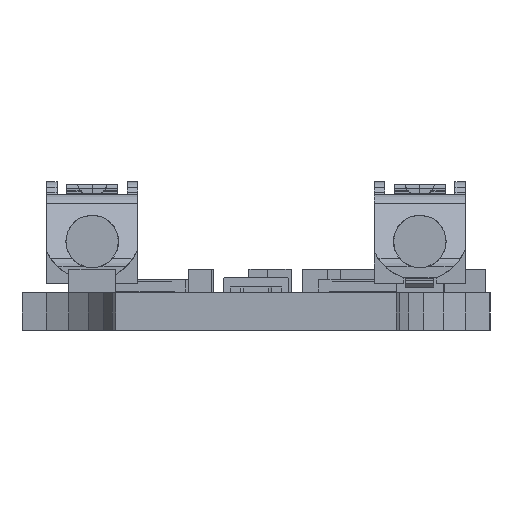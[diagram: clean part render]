
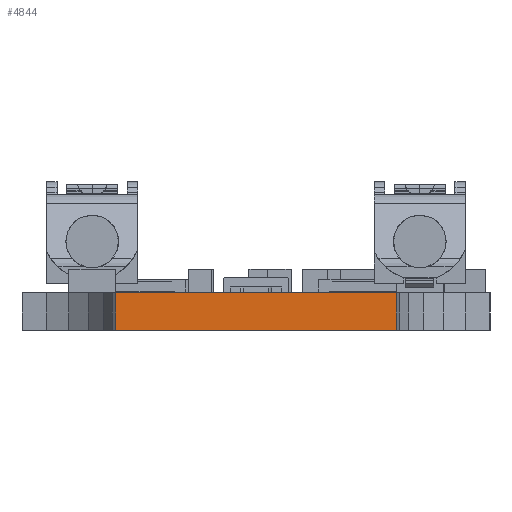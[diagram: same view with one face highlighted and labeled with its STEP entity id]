
A CAD part, left-side view. The second image highlights one B-rep face of the part: STEP entity #4844.
In plain terms, the highlighted planar face has unit normal (-1, 0, 0).
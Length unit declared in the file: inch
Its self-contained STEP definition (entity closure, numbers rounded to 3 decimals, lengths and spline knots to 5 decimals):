
#15=DIRECTION('',(0.,-1.,0.));
#16=VECTOR('',#15,12.);
#17=CARTESIAN_POINT('',(-279.6,6.,0.));
#18=LINE('',#17,#16);
#1262=DIRECTION('',(0.,0.,1.));
#1263=VECTOR('',#1262,1.6);
#1264=CARTESIAN_POINT('',(-279.6,6.,0.));
#1265=LINE('',#1264,#1263);
#2501=DIRECTION('',(0.,0.,1.));
#2502=VECTOR('',#2501,1.6);
#2503=CARTESIAN_POINT('',(-279.6,-6.,0.));
#2504=LINE('',#2503,#2502);
#2508=DIRECTION('',(0.,-1.,0.));
#2509=VECTOR('',#2508,12.);
#2510=CARTESIAN_POINT('',(-279.6,6.,1.6));
#2511=LINE('',#2510,#2509);
#3754=CARTESIAN_POINT('',(-279.6,6.,0.));
#3755=CARTESIAN_POINT('',(-279.6,-6.,0.));
#3756=VERTEX_POINT('',#3754);
#3757=VERTEX_POINT('',#3755);
#4110=CARTESIAN_POINT('',(-279.6,6.,1.6));
#4111=CARTESIAN_POINT('',(-279.6,-6.,1.6));
#4112=VERTEX_POINT('',#4110);
#4113=VERTEX_POINT('',#4111);
#4830=CARTESIAN_POINT('',(-279.6,6.,0.));
#4831=DIRECTION('',(-1.,0.,0.));
#4832=DIRECTION('',(0.,-1.,0.));
#4833=AXIS2_PLACEMENT_3D('',#4830,#4831,#4832);
#4834=PLANE('',#4833);
#4835=ORIENTED_EDGE('',*,*,#4471,.F.);
#4837=ORIENTED_EDGE('',*,*,#4836,.T.);
#4839=ORIENTED_EDGE('',*,*,#4838,.T.);
#4841=ORIENTED_EDGE('',*,*,#4840,.F.);
#4842=EDGE_LOOP('',(#4835,#4837,#4839,#4841));
#4843=FACE_OUTER_BOUND('',#4842,.F.);
#4471=EDGE_CURVE('',#3756,#3757,#18,.T.);
#4836=EDGE_CURVE('',#3756,#4112,#1265,.T.);
#4838=EDGE_CURVE('',#4112,#4113,#2511,.T.);
#4840=EDGE_CURVE('',#3757,#4113,#2504,.T.);
#4844=ADVANCED_FACE('',(#4843),#4834,.T.);
